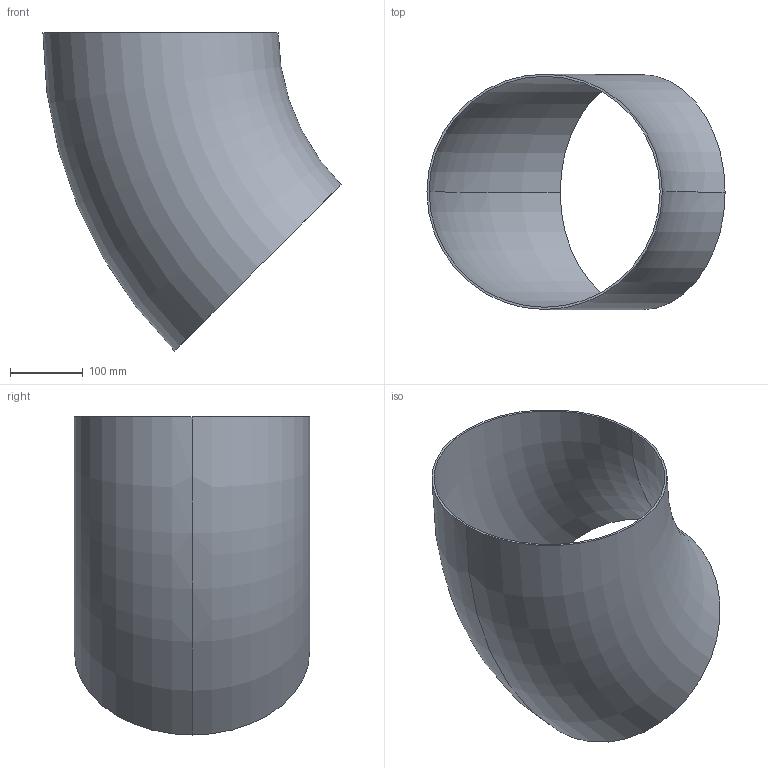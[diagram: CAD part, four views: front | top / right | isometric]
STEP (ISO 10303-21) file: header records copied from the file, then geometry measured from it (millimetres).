
FILE_DESCRIPTION (( 'STEP AP203' ), '1' );
FILE_NAME ('3D_R1650_323.9x3_17352000.STEP', '2024-08-03T09:22:56', ( '' ), ( '' ), 'SwSTEP 2.0', 'SolidWorks 2024', '' );
FILE_SCHEMA (( 'CONFIG_CONTROL_DESIGN' ));
Length unit declared in the file: millimetre
Products named in the file (1): 3D_R1650_323.9x3_17352000
Bounding box: 410.32 x 323.9 x 437.66 mm (x, y, z)
Volume: 1085542.7 mm3; surface area: 729744 mm2
Topology: 1 solids, 1 shells, 6 faces, 12 edges, 8 vertices
Faces by surface type: torus 4, plane 2
Entity records: 249 total; most frequent: DIRECTION 38, CARTESIAN_POINT 27, ORIENTED_EDGE 24, AXIS2_PLACEMENT_3D 19, EDGE_CURVE 12, CIRCLE 12, EDGE_LOOP 8, PERSON_AND_ORGANIZATION 8
